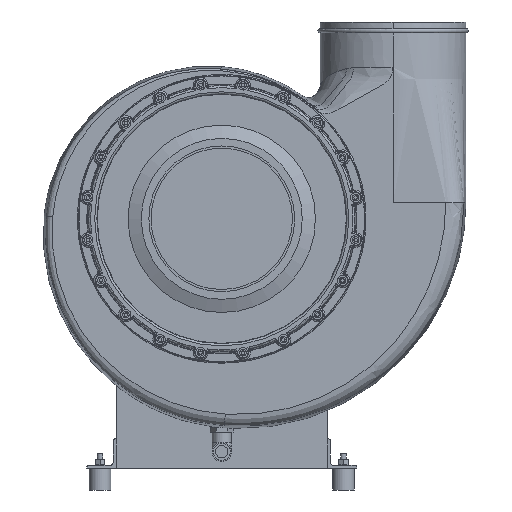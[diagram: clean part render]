
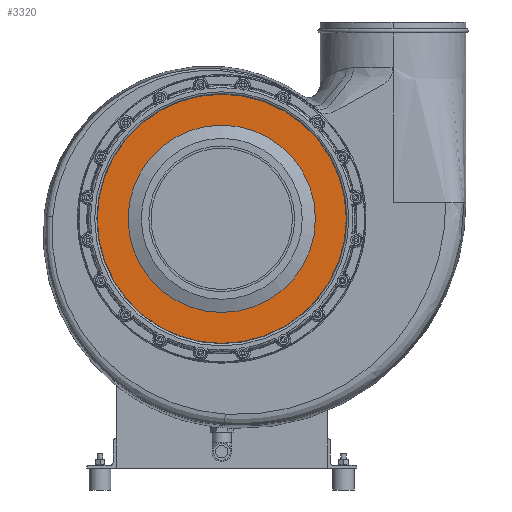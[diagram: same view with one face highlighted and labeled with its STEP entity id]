
A CAD part, front view. The second image highlights one B-rep face of the part: STEP entity #3320.
In plain terms, the highlighted planar face has unit normal (0, -1, 0).
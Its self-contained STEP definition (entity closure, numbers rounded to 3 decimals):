
#3320 = ADVANCED_FACE( '', ( #7036, #7037 ), #7038, .T. );
#7036 = FACE_BOUND( '', #29141, .T. );
#7037 = FACE_OUTER_BOUND( '', #29142, .T. );
#7038 = PLANE( '', #29143 );
#29141 = EDGE_LOOP( '', ( #43098 ) );
#29142 = EDGE_LOOP( '', ( #43099 ) );
#29143 = AXIS2_PLACEMENT_3D( '', #43100, #43101, #43102 );
#43098 = ORIENTED_EDGE( '', *, *, #47246, .T. );
#43099 = ORIENTED_EDGE( '', *, *, #45767, .F. );
#43100 = CARTESIAN_POINT( '', ( 0., -112., 523. ) );
#43101 = DIRECTION( '', ( 0., -1., 0. ) );
#43102 = DIRECTION( '', ( 1., 0., 0. ) );
#45767 = EDGE_CURVE( '', #50707, #50707, #50708, .F. );
#47246 = EDGE_CURVE( '', #52508, #52508, #52509, .F. );
#50707 = VERTEX_POINT( '', #65499 );
#50708 = CIRCLE( '', #65500, 170.852 );
#52508 = VERTEX_POINT( '', #72716 );
#52509 = CIRCLE( '', #72717, 128.502 );
#65499 = CARTESIAN_POINT( '', ( 0., -112., 171.148 ) );
#65500 = AXIS2_PLACEMENT_3D( '', #75316, #75317, #75318 );
#72716 = CARTESIAN_POINT( '', ( 0., -112., 213.498 ) );
#72717 = AXIS2_PLACEMENT_3D( '', #76409, #76410, #76411 );
#75316 = CARTESIAN_POINT( '', ( 0., -112., 342. ) );
#75317 = DIRECTION( '', ( 0., -1., 0. ) );
#75318 = DIRECTION( '', ( 0., 0., -1. ) );
#76409 = CARTESIAN_POINT( '', ( 0., -112., 342. ) );
#76410 = DIRECTION( '', ( 0., -1., 0. ) );
#76411 = DIRECTION( '', ( 0., 0., -1. ) );
